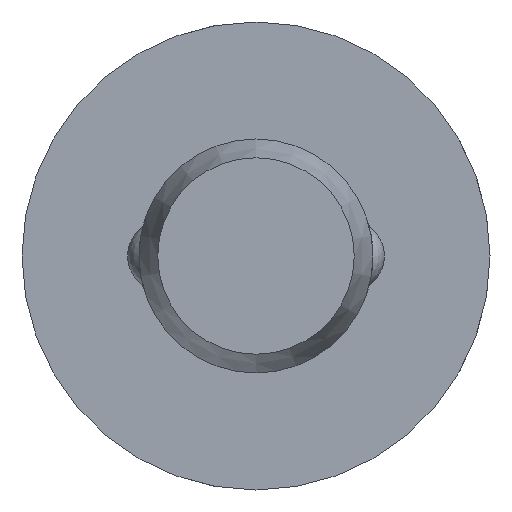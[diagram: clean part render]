
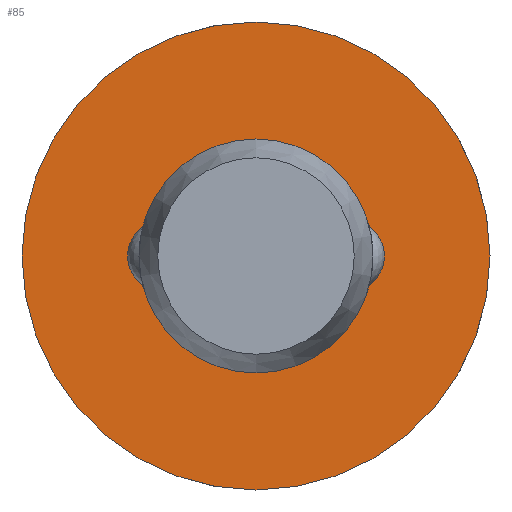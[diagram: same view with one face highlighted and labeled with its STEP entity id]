
A CAD part, left-side view. The second image highlights one B-rep face of the part: STEP entity #85.
In plain terms, the highlighted planar face has unit normal (-1, 0, 0).
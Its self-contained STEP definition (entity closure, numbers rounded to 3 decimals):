
#85 = ADVANCED_FACE( '', ( #131, #132 ), #133, .F. );
#131 = FACE_OUTER_BOUND( '', #204, .T. );
#132 = FACE_BOUND( '', #205, .T. );
#133 = PLANE( '', #206 );
#204 = EDGE_LOOP( '', ( #322 ) );
#205 = EDGE_LOOP( '', ( #323 ) );
#206 = AXIS2_PLACEMENT_3D( '', #324, #325, #326 );
#322 = ORIENTED_EDGE( '', *, *, #470, .F. );
#323 = ORIENTED_EDGE( '', *, *, #467, .T. );
#324 = CARTESIAN_POINT( '', ( 51., 2.5, 0. ) );
#325 = DIRECTION( '', ( 1., 0., 0. ) );
#326 = DIRECTION( '', ( 0., 0., -1. ) );
#467 = EDGE_CURVE( '', #541, #541, #542, .T. );
#470 = EDGE_CURVE( '', #547, #547, #548, .T. );
#541 = VERTEX_POINT( '', #749 );
#542 = CIRCLE( '', #750, 2.5 );
#547 = VERTEX_POINT( '', #801 );
#548 = CIRCLE( '', #802, 5. );
#749 = CARTESIAN_POINT( '', ( 51., 0., -2.5 ) );
#750 = AXIS2_PLACEMENT_3D( '', #881, #882, #883 );
#801 = CARTESIAN_POINT( '', ( 51., 0., -5. ) );
#802 = AXIS2_PLACEMENT_3D( '', #884, #885, #886 );
#881 = CARTESIAN_POINT( '', ( 51., 0., 0. ) );
#882 = DIRECTION( '', ( 1., 0., 0. ) );
#883 = DIRECTION( '', ( 0., 0., -1. ) );
#884 = CARTESIAN_POINT( '', ( 51., 0., 0. ) );
#885 = DIRECTION( '', ( 1., 0., 0. ) );
#886 = DIRECTION( '', ( 0., 0., -1. ) );
